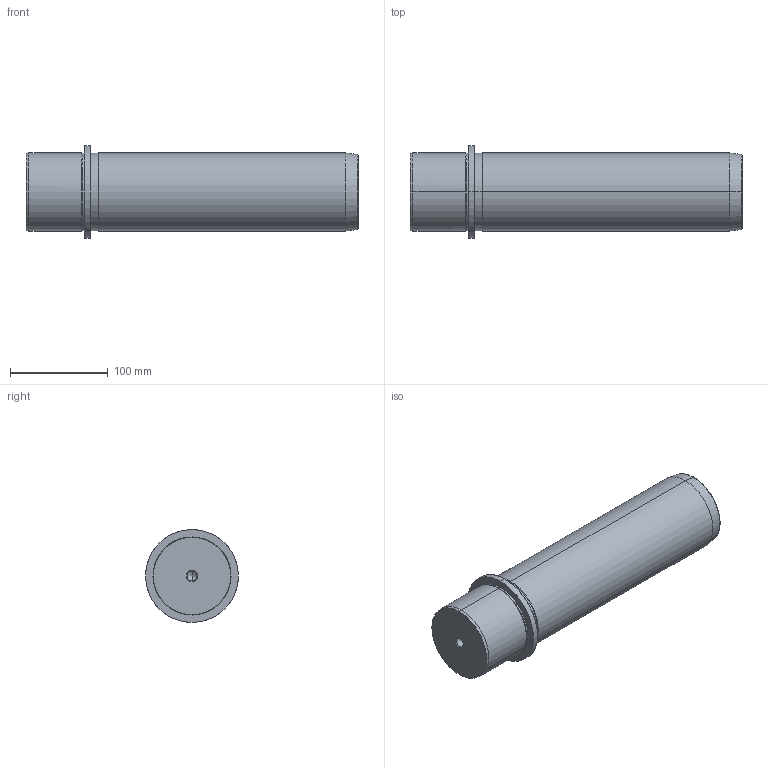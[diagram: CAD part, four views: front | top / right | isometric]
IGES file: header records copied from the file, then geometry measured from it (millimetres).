
Start section: START RECORD GO HERE.
Global section: file name: 718-80x280.igs; native system: DASSAULT SYSTEMES CATIA V5 R20 - www.3ds.com; preprocessor: CATIA Version 5 Release 20 ; author: Utente; organization: NB04-ASUS; date: 20210102.083516; units: millimetre
Bounding box: 340 x 95 x 95 mm (x, y, z)
Surface area: 101080.9 mm2 (no closed solid volume)
Topology: 0 solids, 0 shells, 36 faces, 220 edges, 216 vertices
Faces by surface type: revolution 32, plane 4
